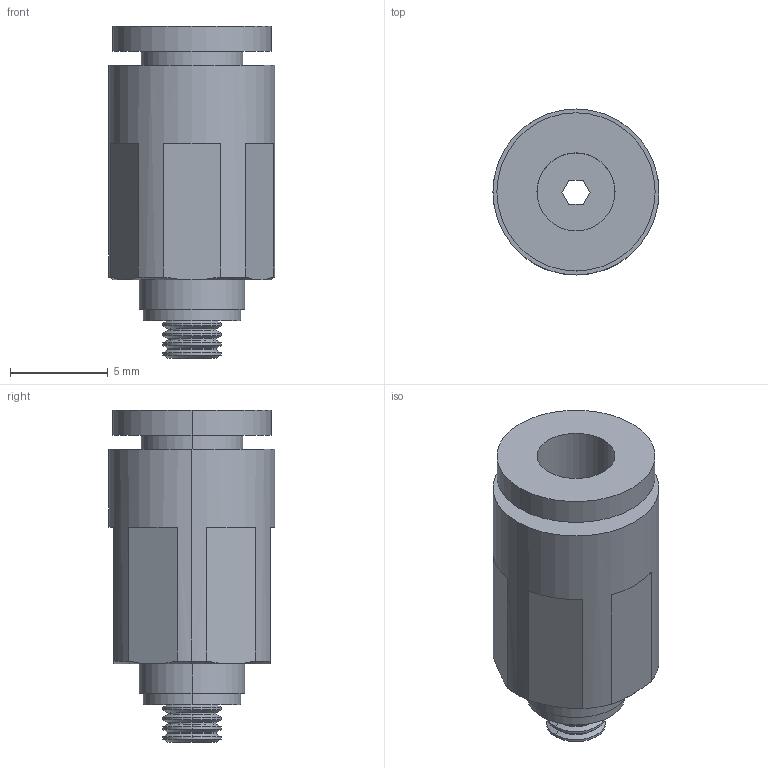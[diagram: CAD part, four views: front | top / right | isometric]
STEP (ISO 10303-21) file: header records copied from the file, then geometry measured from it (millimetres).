
FILE_DESCRIPTION (( 'STEP AP214' ), '1' );
FILE_NAME ('101-106.101.STEP', '2015-07-24T19:45:12', ( 'emi 5600 1' ), ( 'Microsoft' ), 'SwSTEP 2.0', 'SolidWorks 2013', '' );
FILE_SCHEMA (( 'AUTOMOTIVE_DESIGN' ));
Length unit declared in the file: millimetre
Products named in the file (1): 101-106.101
Bounding box: 8.5 x 8.5 x 17 mm (x, y, z)
Volume: 577.7 mm3; surface area: 757.7 mm2
Topology: 1 solids, 1 shells, 89 faces, 194 edges, 115 vertices
Faces by surface type: cylinder 34, plane 28, cone 27
Entity records: 2645 total; most frequent: CARTESIAN_POINT 473, DIRECTION 447, ORIENTED_EDGE 388, EDGE_CURVE 194, AXIS2_PLACEMENT_3D 181, VERTEX_POINT 115, EDGE_LOOP 99, CIRCLE 91
